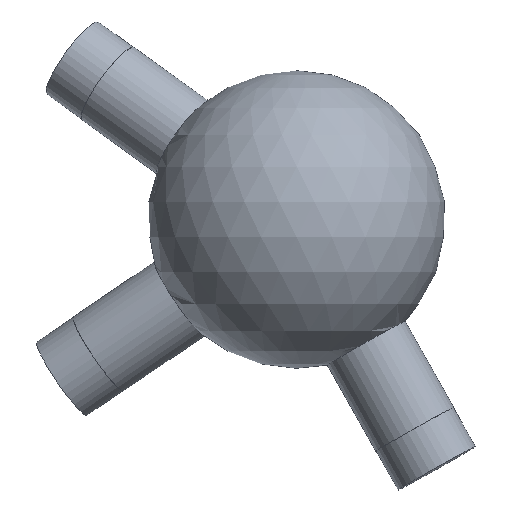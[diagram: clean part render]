
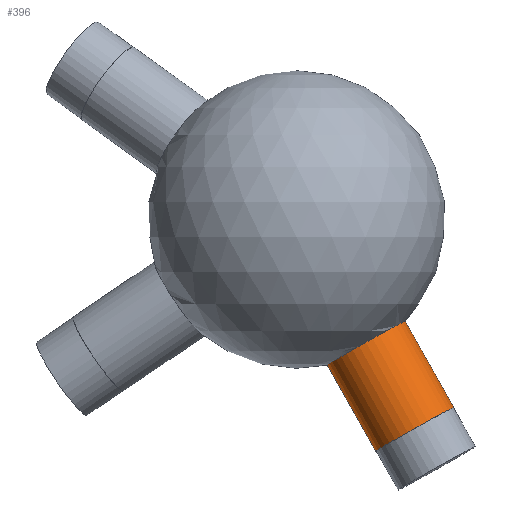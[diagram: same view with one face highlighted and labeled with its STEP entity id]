
A CAD part, left-side view. The second image highlights one B-rep face of the part: STEP entity #396.
In plain terms, the highlighted cylindrical face has radius 6 mm (diameter 12 mm), a full revolution.
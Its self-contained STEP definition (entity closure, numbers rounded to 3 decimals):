
#35 = SPHERICAL_SURFACE('',#36,20.);
#36 = AXIS2_PLACEMENT_3D('',#37,#38,#39);
#37 = CARTESIAN_POINT('',(0.,0.,0.));
#38 = DIRECTION('',(0.,0.,1.));
#39 = DIRECTION('',(1.,0.,-0.));
#123 = EDGE_CURVE('',#124,#124,#126,.T.);
#124 = VERTEX_POINT('',#125);
#125 = CARTESIAN_POINT('',(-0.365,-14.59,
    -13.675));
#126 = SURFACE_CURVE('',#127,(#132,#236),.PCURVE_S1.);
#127 = CIRCLE('',#128,6.);
#128 = AXIS2_PLACEMENT_3D('',#129,#130,#131);
#129 = CARTESIAN_POINT('',(-0.365,-9.362,
    -16.62));
#130 = DIRECTION('',(-0.019,-0.491,-0.871
    ));
#131 = DIRECTION('',(0.,0.871,-0.491));
#132 = PCURVE('',#35,#133);
#133 = DEFINITIONAL_REPRESENTATION('',(#134),#235);
#134 = B_SPLINE_CURVE_WITH_KNOTS('',8,(#135,#136,#137,#138,#139,#140,
    #141,#142,#143,#144,#145,#146,#147,#148,#149,#150,#151,#152,#153,
    #154,#155,#156,#157,#158,#159,#160,#161,#162,#163,#164,#165,#166,
    #167,#168,#169,#170,#171,#172,#173,#174,#175,#176,#177,#178,#179,
    #180,#181,#182,#183,#184,#185,#186,#187,#188,#189,#190,#191,#192,
    #193,#194,#195,#196,#197,#198,#199,#200,#201,#202,#203,#204,#205,
    #206,#207,#208,#209,#210,#211,#212,#213,#214,#215,#216,#217,#218,
    #219,#220,#221,#222,#223,#224,#225,#226,#227,#228,#229,#230,#231,
    #232,#233,#234),.UNSPECIFIED.,.T.,.F.,(9,7,7,7,7,7,7,7,7,7,7,7,7,7,9
    ),(3.142,3.927,4.614,5.216,
    5.479,5.725,5.956,6.173,
    6.376,6.567,6.924,7.237,
    7.784,8.604,9.425),.UNSPECIFIED.);
#135 = CARTESIAN_POINT('',(4.687,-0.753));
#136 = CARTESIAN_POINT('',(4.647,-0.752));
#137 = CARTESIAN_POINT('',(4.607,-0.754));
#138 = CARTESIAN_POINT('',(4.566,-0.758));
#139 = CARTESIAN_POINT('',(4.526,-0.764));
#140 = CARTESIAN_POINT('',(4.487,-0.772));
#141 = CARTESIAN_POINT('',(4.448,-0.782));
#142 = CARTESIAN_POINT('',(4.41,-0.794));
#143 = CARTESIAN_POINT('',(4.34,-0.821));
#144 = CARTESIAN_POINT('',(4.308,-0.835));
#145 = CARTESIAN_POINT('',(4.277,-0.851));
#146 = CARTESIAN_POINT('',(4.247,-0.867));
#147 = CARTESIAN_POINT('',(4.218,-0.886));
#148 = CARTESIAN_POINT('',(4.19,-0.905));
#149 = CARTESIAN_POINT('',(4.164,-0.925));
#150 = CARTESIAN_POINT('',(4.118,-0.966));
#151 = CARTESIAN_POINT('',(4.098,-0.985));
#152 = CARTESIAN_POINT('',(4.08,-1.005));
#153 = CARTESIAN_POINT('',(4.063,-1.026));
#154 = CARTESIAN_POINT('',(4.048,-1.048));
#155 = CARTESIAN_POINT('',(4.036,-1.07));
#156 = CARTESIAN_POINT('',(4.027,-1.092));
#157 = CARTESIAN_POINT('',(4.019,-1.124));
#158 = CARTESIAN_POINT('',(4.017,-1.134));
#159 = CARTESIAN_POINT('',(4.016,-1.144));
#160 = CARTESIAN_POINT('',(4.015,-1.154));
#161 = CARTESIAN_POINT('',(4.016,-1.164));
#162 = CARTESIAN_POINT('',(4.018,-1.173));
#163 = CARTESIAN_POINT('',(4.02,-1.183));
#164 = CARTESIAN_POINT('',(4.027,-1.202));
#165 = CARTESIAN_POINT('',(4.032,-1.211));
#166 = CARTESIAN_POINT('',(4.038,-1.22));
#167 = CARTESIAN_POINT('',(4.044,-1.229));
#168 = CARTESIAN_POINT('',(4.053,-1.238));
#169 = CARTESIAN_POINT('',(4.062,-1.247));
#170 = CARTESIAN_POINT('',(4.073,-1.255));
#171 = CARTESIAN_POINT('',(4.098,-1.272));
#172 = CARTESIAN_POINT('',(4.112,-1.279));
#173 = CARTESIAN_POINT('',(4.127,-1.287));
#174 = CARTESIAN_POINT('',(4.144,-1.294));
#175 = CARTESIAN_POINT('',(4.163,-1.301));
#176 = CARTESIAN_POINT('',(4.184,-1.308));
#177 = CARTESIAN_POINT('',(4.207,-1.314));
#178 = CARTESIAN_POINT('',(4.255,-1.326));
#179 = CARTESIAN_POINT('',(4.281,-1.332));
#180 = CARTESIAN_POINT('',(4.308,-1.337));
#181 = CARTESIAN_POINT('',(4.337,-1.341));
#182 = CARTESIAN_POINT('',(4.368,-1.345));
#183 = CARTESIAN_POINT('',(4.401,-1.349));
#184 = CARTESIAN_POINT('',(4.435,-1.352));
#185 = CARTESIAN_POINT('',(4.505,-1.357));
#186 = CARTESIAN_POINT('',(4.54,-1.359));
#187 = CARTESIAN_POINT('',(4.575,-1.361));
#188 = CARTESIAN_POINT('',(4.612,-1.362));
#189 = CARTESIAN_POINT('',(4.649,-1.363));
#190 = CARTESIAN_POINT('',(4.686,-1.363));
#191 = CARTESIAN_POINT('',(4.723,-1.362));
#192 = CARTESIAN_POINT('',(4.793,-1.36));
#193 = CARTESIAN_POINT('',(4.826,-1.358));
#194 = CARTESIAN_POINT('',(4.859,-1.357));
#195 = CARTESIAN_POINT('',(4.891,-1.354));
#196 = CARTESIAN_POINT('',(4.921,-1.352));
#197 = CARTESIAN_POINT('',(4.951,-1.348));
#198 = CARTESIAN_POINT('',(4.979,-1.345));
#199 = CARTESIAN_POINT('',(5.055,-1.334));
#200 = CARTESIAN_POINT('',(5.1,-1.326));
#201 = CARTESIAN_POINT('',(5.139,-1.316));
#202 = CARTESIAN_POINT('',(5.173,-1.306));
#203 = CARTESIAN_POINT('',(5.203,-1.295));
#204 = CARTESIAN_POINT('',(5.228,-1.284));
#205 = CARTESIAN_POINT('',(5.249,-1.272));
#206 = CARTESIAN_POINT('',(5.282,-1.249));
#207 = CARTESIAN_POINT('',(5.295,-1.238));
#208 = CARTESIAN_POINT('',(5.305,-1.227));
#209 = CARTESIAN_POINT('',(5.314,-1.215));
#210 = CARTESIAN_POINT('',(5.32,-1.204));
#211 = CARTESIAN_POINT('',(5.325,-1.192));
#212 = CARTESIAN_POINT('',(5.328,-1.181));
#213 = CARTESIAN_POINT('',(5.332,-1.148));
#214 = CARTESIAN_POINT('',(5.331,-1.128));
#215 = CARTESIAN_POINT('',(5.327,-1.107));
#216 = CARTESIAN_POINT('',(5.319,-1.087));
#217 = CARTESIAN_POINT('',(5.309,-1.067));
#218 = CARTESIAN_POINT('',(5.297,-1.047));
#219 = CARTESIAN_POINT('',(5.283,-1.028));
#220 = CARTESIAN_POINT('',(5.245,-0.981));
#221 = CARTESIAN_POINT('',(5.218,-0.954));
#222 = CARTESIAN_POINT('',(5.189,-0.928));
#223 = CARTESIAN_POINT('',(5.157,-0.904));
#224 = CARTESIAN_POINT('',(5.123,-0.881));
#225 = CARTESIAN_POINT('',(5.088,-0.86));
#226 = CARTESIAN_POINT('',(5.051,-0.841));
#227 = CARTESIAN_POINT('',(4.975,-0.808));
#228 = CARTESIAN_POINT('',(4.936,-0.793));
#229 = CARTESIAN_POINT('',(4.896,-0.781));
#230 = CARTESIAN_POINT('',(4.855,-0.77));
#231 = CARTESIAN_POINT('',(4.814,-0.762));
#232 = CARTESIAN_POINT('',(4.772,-0.757));
#233 = CARTESIAN_POINT('',(4.73,-0.754));
#234 = CARTESIAN_POINT('',(4.687,-0.753));
#235 = ( GEOMETRIC_REPRESENTATION_CONTEXT(2) 
PARAMETRIC_REPRESENTATION_CONTEXT() REPRESENTATION_CONTEXT('2D SPACE',''
  ) );
#236 = PCURVE('',#237,#242);
#237 = CYLINDRICAL_SURFACE('',#238,6.);
#238 = AXIS2_PLACEMENT_3D('',#239,#240,#241);
#239 = CARTESIAN_POINT('',(0.,0.,0.));
#240 = DIRECTION('',(-0.019,-0.491,-0.871
    ));
#241 = DIRECTION('',(0.,-0.871,0.491)
  );
#242 = DEFINITIONAL_REPRESENTATION('',(#243),#247);
#243 = LINE('',#244,#245);
#244 = CARTESIAN_POINT('',(-3.142,19.079));
#245 = VECTOR('',#246,1.);
#246 = DIRECTION('',(1.,0.));
#247 = ( GEOMETRIC_REPRESENTATION_CONTEXT(2) 
PARAMETRIC_REPRESENTATION_CONTEXT() REPRESENTATION_CONTEXT('2D SPACE',''
  ) );
#396 = ADVANCED_FACE('',(#397),#237,.T.);
#397 = FACE_BOUND('',#398,.T.);
#398 = EDGE_LOOP('',(#399,#422,#449,#450));
#399 = ORIENTED_EDGE('',*,*,#400,.T.);
#400 = EDGE_CURVE('',#124,#401,#403,.T.);
#401 = VERTEX_POINT('',#402);
#402 = CARTESIAN_POINT('',(-0.619,-21.116,
    -25.261));
#403 = SEAM_CURVE('',#404,(#408,#415),.PCURVE_S1.);
#404 = LINE('',#405,#406);
#405 = CARTESIAN_POINT('',(0.,-5.228,
    2.945));
#406 = VECTOR('',#407,1.);
#407 = DIRECTION('',(-0.019,-0.491,-0.871
    ));
#408 = PCURVE('',#237,#409);
#409 = DEFINITIONAL_REPRESENTATION('',(#410),#414);
#410 = LINE('',#411,#412);
#411 = CARTESIAN_POINT('',(6.283,-0.));
#412 = VECTOR('',#413,1.);
#413 = DIRECTION('',(0.,1.));
#414 = ( GEOMETRIC_REPRESENTATION_CONTEXT(2) 
PARAMETRIC_REPRESENTATION_CONTEXT() REPRESENTATION_CONTEXT('2D SPACE',''
  ) );
#415 = PCURVE('',#237,#416);
#416 = DEFINITIONAL_REPRESENTATION('',(#417),#421);
#417 = LINE('',#418,#419);
#418 = CARTESIAN_POINT('',(0.,-0.));
#419 = VECTOR('',#420,1.);
#420 = DIRECTION('',(0.,1.));
#421 = ( GEOMETRIC_REPRESENTATION_CONTEXT(2) 
PARAMETRIC_REPRESENTATION_CONTEXT() REPRESENTATION_CONTEXT('2D SPACE',''
  ) );
#422 = ORIENTED_EDGE('',*,*,#423,.F.);
#423 = EDGE_CURVE('',#401,#401,#424,.T.);
#424 = SURFACE_CURVE('',#425,(#430,#437),.PCURVE_S1.);
#425 = CIRCLE('',#426,6.);
#426 = AXIS2_PLACEMENT_3D('',#427,#428,#429);
#427 = CARTESIAN_POINT('',(-0.619,-15.888,
    -28.206));
#428 = DIRECTION('',(-0.019,-0.491,-0.871
    ));
#429 = DIRECTION('',(0.,-0.871,0.491)
  );
#430 = PCURVE('',#237,#431);
#431 = DEFINITIONAL_REPRESENTATION('',(#432),#436);
#432 = LINE('',#433,#434);
#433 = CARTESIAN_POINT('',(0.,32.379));
#434 = VECTOR('',#435,1.);
#435 = DIRECTION('',(1.,0.));
#436 = ( GEOMETRIC_REPRESENTATION_CONTEXT(2) 
PARAMETRIC_REPRESENTATION_CONTEXT() REPRESENTATION_CONTEXT('2D SPACE',''
  ) );
#437 = PCURVE('',#438,#443);
#438 = PLANE('',#439);
#439 = AXIS2_PLACEMENT_3D('',#440,#441,#442);
#440 = CARTESIAN_POINT('',(-0.619,-15.888,
    -28.206));
#441 = DIRECTION('',(-0.019,-0.491,-0.871
    ));
#442 = DIRECTION('',(0.,-0.871,0.491)
  );
#443 = DEFINITIONAL_REPRESENTATION('',(#444),#448);
#444 = CIRCLE('',#445,6.);
#445 = AXIS2_PLACEMENT_2D('',#446,#447);
#446 = CARTESIAN_POINT('',(0.,0.));
#447 = DIRECTION('',(1.,0.));
#448 = ( GEOMETRIC_REPRESENTATION_CONTEXT(2) 
PARAMETRIC_REPRESENTATION_CONTEXT() REPRESENTATION_CONTEXT('2D SPACE',''
  ) );
#449 = ORIENTED_EDGE('',*,*,#400,.F.);
#450 = ORIENTED_EDGE('',*,*,#123,.T.);
